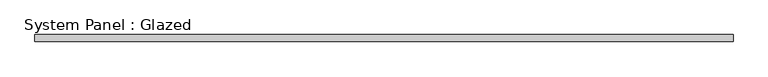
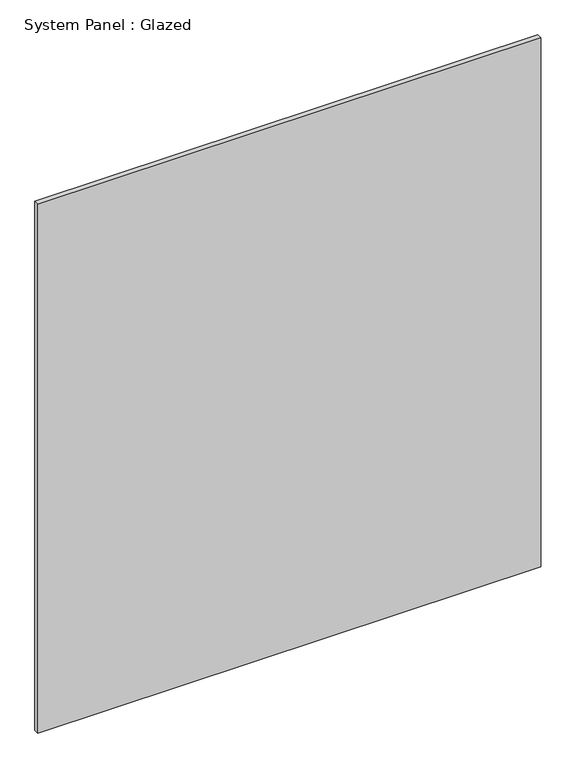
"""IFC4 building model written with IfcOpenShell, lengths in millimetres: plate geometry, System Panel : Glazed."""

from ifc_helpers import new_model, si_unit, origin, origin_with_axes, place, context, project, spatial, polyline, outline, extrude, source, transform, mapped, element, save


def system_panel_glazed_bcb18e60(model_context):
    return source(origin(), model_context, "Body", "SweptSolid", [
        extrude(outline(polyline([(1237.5, -49.5), (-1237.5, -49.5), (-1237.5, -24.5), (1237.5, -24.5), (1237.5, -49.5)])), origin_with_axes(), (0.0, 0.0, 1.0), 2750.0),
    ])


if __name__ == "__main__":
    model = new_model("IFC4")
    model_context = context("Model", 3, world=origin())
    ifc_project = project(units=[si_unit("LENGTHUNIT", "METRE", prefix="MILLI")], contexts=[model_context])
    site = spatial("IfcSite", under=ifc_project)
    building = spatial("IfcBuilding", under=site)
    placement = place(None, origin())
    system_panel_glazed_shape = system_panel_glazed_bcb18e60(model_context)
    element("IfcPlate", 1, ObjectType="System Panel : Glazed", at=placement, inside=building, context=model_context, shape_type="MappedRepresentation", body=[
        mapped(system_panel_glazed_shape, transform((0.0, 0.0, 0.0), x_axis=(1.0, 0.0, 0.0), y_axis=(0.0, 1.0, 0.0), z_axis=(0.0, 0.0, 1.0))),
    ])
    save(model, "model.ifc")
